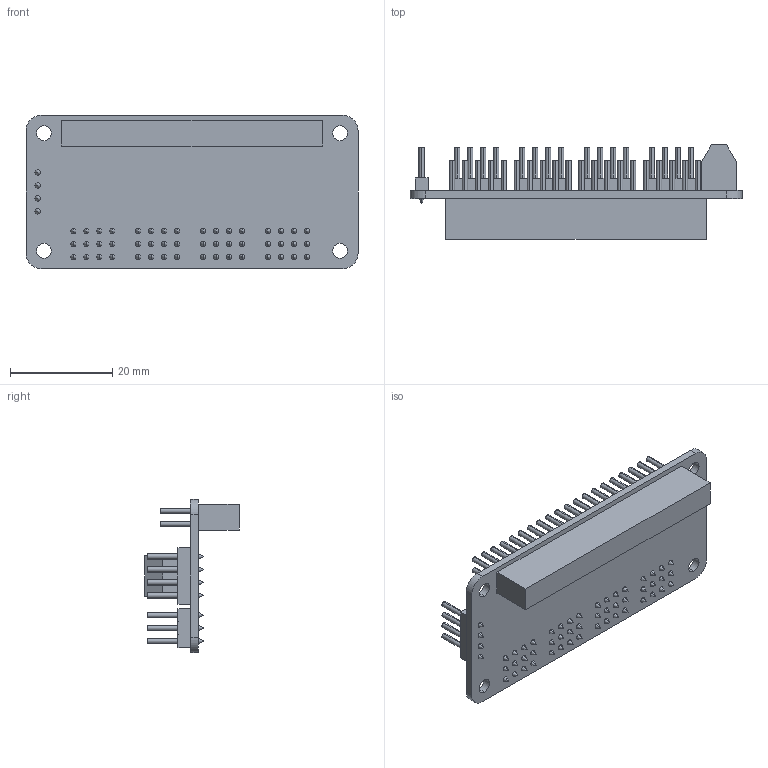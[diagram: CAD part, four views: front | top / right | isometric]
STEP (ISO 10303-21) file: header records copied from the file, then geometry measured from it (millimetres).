
FILE_DESCRIPTION (( 'STEP AP214' ), '1' );
FILE_NAME ('ServoHat for Raspberry.STEP', '2024-05-09T13:35:25', ( '' ), ( '' ), 'SwSTEP 2.0', 'SolidWorks 2022', '' );
FILE_SCHEMA (( 'AUTOMOTIVE_DESIGN' ));
Length unit declared in the file: millimetre
Products named in the file (1): ServoHat for Raspberry
Bounding box: 65 x 18.5 x 30 mm (x, y, z)
Volume: 6525.9 mm3; surface area: 7728.4 mm2
Topology: 1 solids, 1 shells, 716 faces, 1638 edges, 1092 vertices
Faces by surface type: plane 316, cylinder 204, cone 104, bspline 92
Entity records: 23868 total; most frequent: CARTESIAN_POINT 6603, DIRECTION 3320, ORIENTED_EDGE 3276, EDGE_CURVE 1638, AXIS2_PLACEMENT_3D 1241, VERTEX_POINT 1092, EDGE_LOOP 892, VECTOR 838
